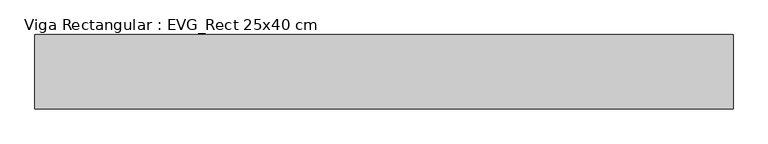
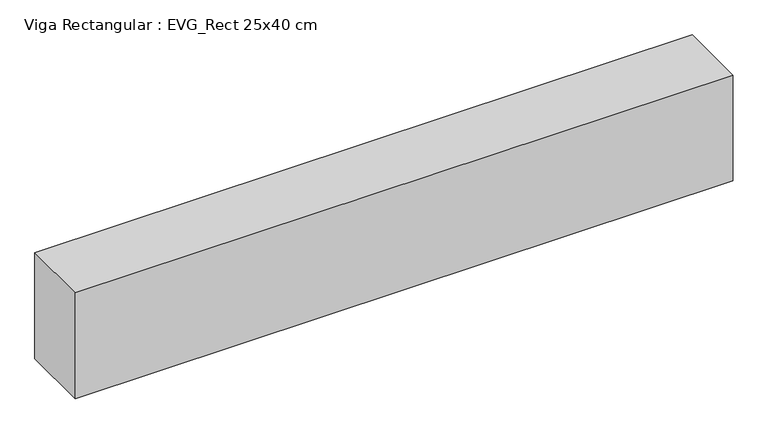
"""IFC4 building model written with IfcOpenShell, lengths in millimetres: beam geometry, Viga Rectangular : EVG_Rect 25x40 cm."""

from ifc_helpers import new_model, si_unit, frame, origin, place, context, project, spatial, polyline, outline, extrude, source, transform, mapped, element, save


def viga_rectangular_evg_rect_25x40_cm_08c52653(model_context):
    return source(origin(), model_context, "Body", "SweptSolid", [
        extrude(outline(polyline([(1247.3971338, 125.0), (1247.3971338, -125.0), (-1102.6028662, -125.0), (-1102.6028662, 125.0), (1247.3971338, 125.0)])), frame((0.0, 0.0, -400.0), z_axis=(0.0, 0.0, 1.0), x_axis=(1.0, 0.0, 0.0)), (0.0, 0.0, 1.0), 400.0),
    ])


if __name__ == "__main__":
    model = new_model("IFC4")
    model_context = context("Model", 3, world=origin())
    ifc_project = project(units=[si_unit("LENGTHUNIT", "METRE", prefix="MILLI")], contexts=[model_context])
    site = spatial("IfcSite", under=ifc_project)
    building = spatial("IfcBuilding", under=site)
    placement = place(None, origin())
    viga_rectangular_evg_rect_25x40_cm_shape = viga_rectangular_evg_rect_25x40_cm_08c52653(model_context)
    element("IfcBeam", 1, ObjectType="Viga Rectangular : EVG_Rect 25x40 cm", at=placement, inside=building, context=model_context, shape_type="MappedRepresentation", body=[
        mapped(viga_rectangular_evg_rect_25x40_cm_shape, transform((0.0, 0.0, 0.0), x_axis=(1.0, 0.0, 0.0), y_axis=(0.0, 1.0, 0.0), z_axis=(0.0, 0.0, 1.0))),
    ])
    save(model, "model.ifc")
